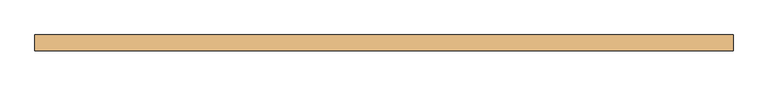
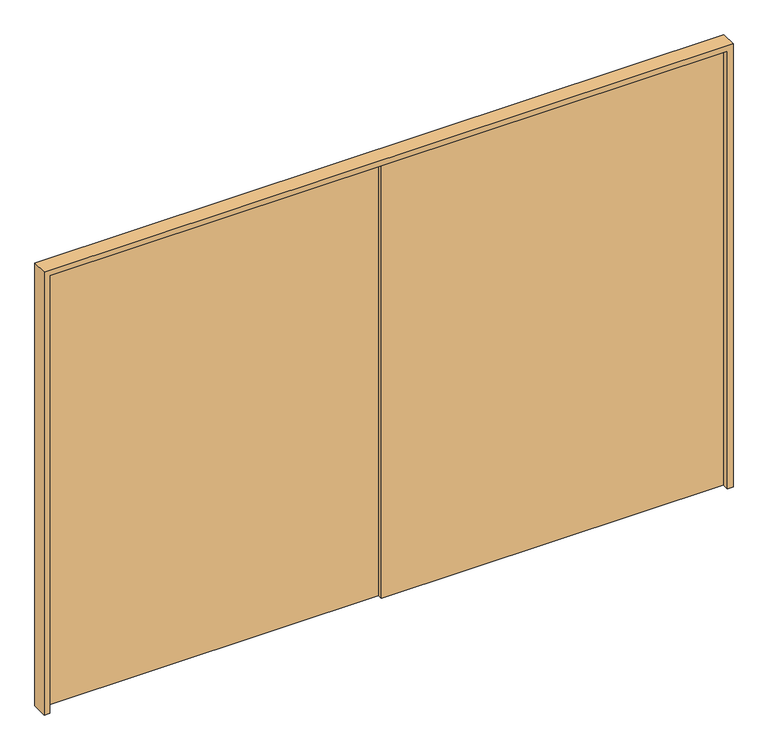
"""IFC4 building model written with IfcOpenShell, lengths in millimetres: door geometry, PRT-plaard coulissant : PRT_COL_207*100."""

from ifc_helpers import new_model, si_unit, frame, origin, origin_with_axes, place, context, project, spatial, polyline, outline, extrude, source, transform, mapped, element, save


def door_848fd270(model_context):
    return source(origin(), model_context, "Body", "SweptSolid", [
        extrude(outline(polyline([(1465.0, -5.0), (-50.0, -5.0), (-50.0, 15.0), (1465.0, 15.0), (1465.0, -5.0)])), origin_with_axes(), (0.0, 0.0, 1.0), 2050.0),
        extrude(outline(polyline([(-20.0, 15.0), (-1535.0, 15.0), (-1535.0, 35.0), (-20.0, 35.0), (-20.0, 15.0)])), origin_with_axes(), (0.0, 0.0, 1.0), 2050.0),
        extrude(outline(polyline([(0.0, -1560.0), (0.0, -1535.0), (2050.0, -1535.0), (2050.0, 1465.0), (0.0, 1465.0), (0.0, 1490.0), (2075.0, 1490.0), (2075.0, -1560.0), (0.0, -1560.0)])), frame((0.0, -35.0, 0.0), z_axis=(0.0, 1.0, 0.0), x_axis=(0.0, 0.0, 1.0)), (0.0, 0.0, 1.0), 70.0),
    ])


if __name__ == "__main__":
    model = new_model("IFC4")
    model_context = context("Model", 3, world=origin())
    ifc_project = project(units=[si_unit("LENGTHUNIT", "METRE", prefix="MILLI")], contexts=[model_context])
    site = spatial("IfcSite", under=ifc_project)
    building = spatial("IfcBuilding", under=site)
    placement = place(None, origin())
    door_shape = door_848fd270(model_context)
    element("IfcDoor", 1, ObjectType="PRT-plaard coulissant : PRT_COL_207*100", at=placement, inside=building, context=model_context, shape_type="MappedRepresentation", body=[
        mapped(door_shape, transform((0.0, 0.0, 0.0), x_axis=(1.0, 0.0, 0.0), y_axis=(0.0, 1.0, 0.0), z_axis=(0.0, 0.0, 1.0))),
    ])
    save(model, "model.ifc")
